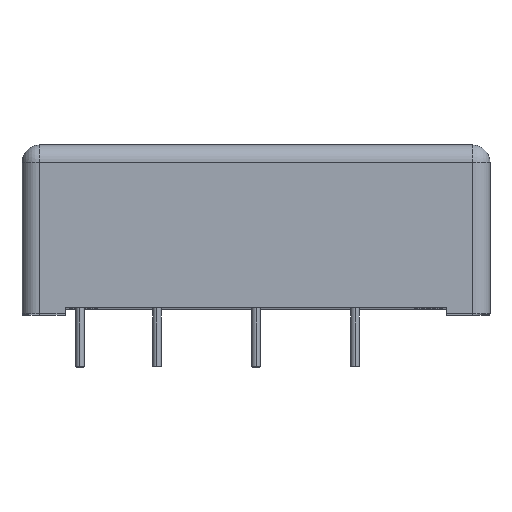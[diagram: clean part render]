
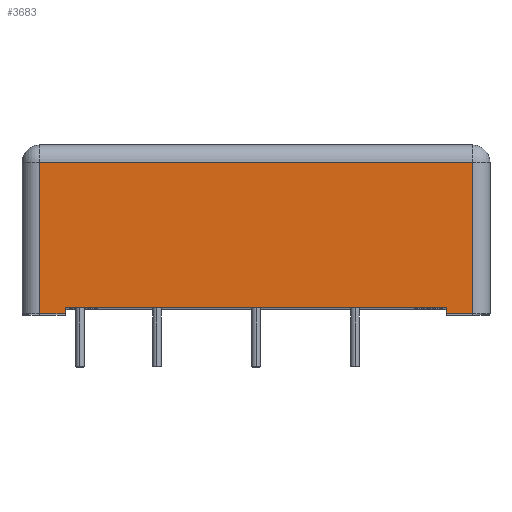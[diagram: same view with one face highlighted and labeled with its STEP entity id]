
A CAD part, top view. The second image highlights one B-rep face of the part: STEP entity #3683.
In plain terms, the highlighted planar face has unit normal (0, 0, 1).
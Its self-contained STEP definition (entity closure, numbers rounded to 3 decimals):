
#38 = CARTESIAN_POINT ( 'NONE',  ( -22., -0.7, 37. ) ) ;
#265 = VERTEX_POINT ( 'NONE', #4134 ) ;
#298 = DIRECTION ( 'NONE',  ( 0., 1., 0. ) ) ;
#441 = VECTOR ( 'NONE', #2518, 1000. ) ;
#627 = EDGE_CURVE ( 'NONE', #3885, #265, #1671, .T. ) ;
#744 = CARTESIAN_POINT ( 'NONE',  ( 22., 0., 37. ) ) ;
#787 = DIRECTION ( 'NONE',  ( -1., 0., 0. ) ) ;
#853 = ORIENTED_EDGE ( 'NONE', *, *, #2533, .T. ) ;
#877 = CARTESIAN_POINT ( 'NONE',  ( -27., 0., 37. ) ) ;
#1008 = DIRECTION ( 'NONE',  ( 0., 1., 0. ) ) ;
#1162 = EDGE_CURVE ( 'NONE', #3945, #4653, #2692, .T. ) ;
#1289 = CARTESIAN_POINT ( 'NONE',  ( -25., 18.8, 37. ) ) ;
#1449 = LINE ( 'NONE', #1538, #5768 ) ;
#1485 = VECTOR ( 'NONE', #787, 1000. ) ;
#1502 = FACE_OUTER_BOUND ( 'NONE', #1616, .T. ) ;
#1525 = VECTOR ( 'NONE', #298, 1000. ) ;
#1538 = CARTESIAN_POINT ( 'NONE',  ( 22., -0.7, 37. ) ) ;
#1545 = VECTOR ( 'NONE', #4466, 1000. ) ;
#1564 = ORIENTED_EDGE ( 'NONE', *, *, #3834, .F. ) ;
#1616 = EDGE_LOOP ( 'NONE', ( #4890, #3121, #853, #3830, #3428, #2782, #1564, #5607 ) ) ;
#1671 = LINE ( 'NONE', #5264, #1485 ) ;
#1725 = CARTESIAN_POINT ( 'NONE',  ( -25., 16.8, 37. ) ) ;
#1751 = CARTESIAN_POINT ( 'NONE',  ( -25., 16.8, 37. ) ) ;
#2164 = CARTESIAN_POINT ( 'NONE',  ( -25., -0.7, 37. ) ) ;
#2177 = CARTESIAN_POINT ( 'NONE',  ( 25., 18.8, 37. ) ) ;
#2199 = EDGE_CURVE ( 'NONE', #2678, #3503, #3053, .T. ) ;
#2263 = DIRECTION ( 'NONE',  ( 0., 1., 0. ) ) ;
#2518 = DIRECTION ( 'NONE',  ( 0., -1., 0. ) ) ;
#2533 = EDGE_CURVE ( 'NONE', #4653, #3275, #4850, .T. ) ;
#2678 = VERTEX_POINT ( 'NONE', #5041 ) ;
#2692 = LINE ( 'NONE', #1751, #3671 ) ;
#2710 = LINE ( 'NONE', #2177, #5499 ) ;
#2782 = ORIENTED_EDGE ( 'NONE', *, *, #2199, .T. ) ;
#2973 = CARTESIAN_POINT ( 'NONE',  ( 25., -0.7, 37. ) ) ;
#3053 = LINE ( 'NONE', #877, #1545 ) ;
#3121 = ORIENTED_EDGE ( 'NONE', *, *, #1162, .T. ) ;
#3180 = EDGE_CURVE ( 'NONE', #4286, #2678, #5800, .T. ) ;
#3275 = VERTEX_POINT ( 'NONE', #2164 ) ;
#3299 = PLANE ( 'NONE',  #3495 ) ;
#3395 = CARTESIAN_POINT ( 'NONE',  ( -22., -0.7, 37. ) ) ;
#3428 = ORIENTED_EDGE ( 'NONE', *, *, #3180, .T. ) ;
#3495 = AXIS2_PLACEMENT_3D ( 'NONE', #3658, #5006, #5461 ) ;
#3503 = VERTEX_POINT ( 'NONE', #744 ) ;
#3658 = CARTESIAN_POINT ( 'NONE',  ( -27., 18.8, 37. ) ) ;
#3671 = VECTOR ( 'NONE', #5407, 1000. ) ;
#3683 = ADVANCED_FACE ( 'NONE', ( #1502 ), #3299, .F. ) ;
#3830 = ORIENTED_EDGE ( 'NONE', *, *, #5261, .F. ) ;
#3834 = EDGE_CURVE ( 'NONE', #265, #3503, #1449, .T. ) ;
#3885 = VERTEX_POINT ( 'NONE', #2973 ) ;
#3945 = VERTEX_POINT ( 'NONE', #4705 ) ;
#4134 = CARTESIAN_POINT ( 'NONE',  ( 22., -0.7, 37. ) ) ;
#4270 = VECTOR ( 'NONE', #5193, 1000. ) ;
#4274 = CARTESIAN_POINT ( 'NONE',  ( -22., -0.7, 37. ) ) ;
#4286 = VERTEX_POINT ( 'NONE', #38 ) ;
#4466 = DIRECTION ( 'NONE',  ( 1., 0., 0. ) ) ;
#4653 = VERTEX_POINT ( 'NONE', #1725 ) ;
#4705 = CARTESIAN_POINT ( 'NONE',  ( 25., 16.8, 37. ) ) ;
#4850 = LINE ( 'NONE', #1289, #441 ) ;
#4890 = ORIENTED_EDGE ( 'NONE', *, *, #5774, .T. ) ;
#5006 = DIRECTION ( 'NONE',  ( 0., 0., -1. ) ) ;
#5041 = CARTESIAN_POINT ( 'NONE',  ( -22., 0., 37. ) ) ;
#5193 = DIRECTION ( 'NONE',  ( -1., 0., 0. ) ) ;
#5261 = EDGE_CURVE ( 'NONE', #4286, #3275, #5641, .T. ) ;
#5264 = CARTESIAN_POINT ( 'NONE',  ( 25., -0.7, 37. ) ) ;
#5407 = DIRECTION ( 'NONE',  ( -1., 0., 0. ) ) ;
#5461 = DIRECTION ( 'NONE',  ( -1., 0., 0. ) ) ;
#5499 = VECTOR ( 'NONE', #2263, 1000. ) ;
#5607 = ORIENTED_EDGE ( 'NONE', *, *, #627, .F. ) ;
#5641 = LINE ( 'NONE', #3395, #4270 ) ;
#5768 = VECTOR ( 'NONE', #1008, 1000. ) ;
#5774 = EDGE_CURVE ( 'NONE', #3885, #3945, #2710, .T. ) ;
#5800 = LINE ( 'NONE', #4274, #1525 ) ;
